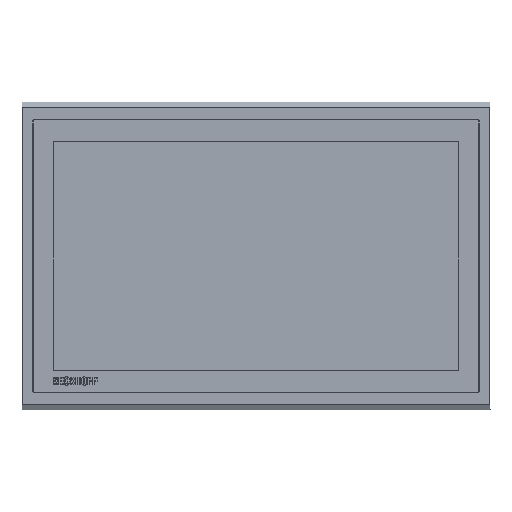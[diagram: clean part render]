
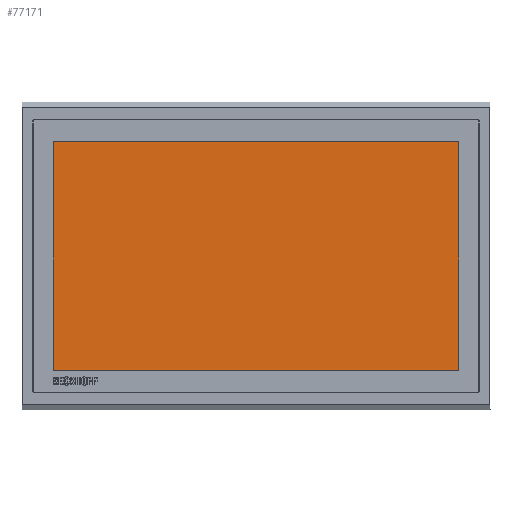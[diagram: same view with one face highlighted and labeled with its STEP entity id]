
A CAD part, top view. The second image highlights one B-rep face of the part: STEP entity #77171.
In plain terms, the highlighted planar face has unit normal (0, 0, 1).
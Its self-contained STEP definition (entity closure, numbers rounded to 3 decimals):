
#9757=FACE_OUTER_BOUND('',#14197,.T.);
#14197=EDGE_LOOP('',(#59259,#59260,#59261,#59262));
#20407=LINE('',#125726,#26499);
#20408=LINE('',#125728,#26500);
#20409=LINE('',#125730,#26501);
#20410=LINE('',#125731,#26502);
#26499=VECTOR('',#99997,10.);
#26500=VECTOR('',#99998,10.);
#26501=VECTOR('',#99999,10.);
#26502=VECTOR('',#100000,10.);
#33066=VERTEX_POINT('',#125724);
#33067=VERTEX_POINT('',#125725);
#33068=VERTEX_POINT('',#125727);
#33069=VERTEX_POINT('',#125729);
#42381=EDGE_CURVE('',#33066,#33067,#20407,.T.);
#42382=EDGE_CURVE('',#33067,#33068,#20408,.T.);
#42383=EDGE_CURVE('',#33068,#33069,#20409,.T.);
#42384=EDGE_CURVE('',#33069,#33066,#20410,.T.);
#59259=ORIENTED_EDGE('',*,*,#42381,.T.);
#59260=ORIENTED_EDGE('',*,*,#42382,.T.);
#59261=ORIENTED_EDGE('',*,*,#42383,.T.);
#59262=ORIENTED_EDGE('',*,*,#42384,.T.);
#70147=PLANE('',#83433);
#77171=ADVANCED_FACE('',(#9757),#70147,.T.);
#83433=AXIS2_PLACEMENT_3D('',#125723,#99995,#99996);
#99995=DIRECTION('center_axis',(0.,0.,
1.));
#99996=DIRECTION('ref_axis',(1.,0.,0.));
#99997=DIRECTION('',(0.,1.,0.));
#99998=DIRECTION('',(-1.,0.,0.));
#99999=DIRECTION('',(0.,-1.,0.));
#100000=DIRECTION('',(1.,0.,0.));
#125723=CARTESIAN_POINT('Origin',(0.,0.,
5.95));
#125724=CARTESIAN_POINT('',(205.8,-116.1,5.95));
#125725=CARTESIAN_POINT('',(205.8,116.1,5.95));
#125726=CARTESIAN_POINT('',(205.8,58.05,5.95));
#125727=CARTESIAN_POINT('',(-205.8,116.1,5.95));
#125728=CARTESIAN_POINT('',(-102.9,116.1,5.95));
#125729=CARTESIAN_POINT('',(-205.8,-116.1,5.95));
#125730=CARTESIAN_POINT('',(-205.8,-58.05,5.95));
#125731=CARTESIAN_POINT('',(102.9,-116.1,5.95));
